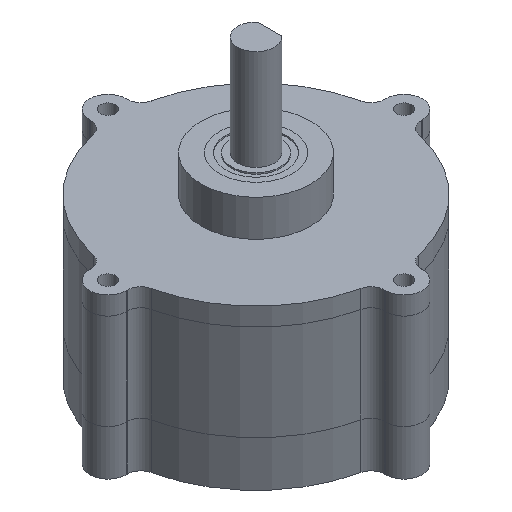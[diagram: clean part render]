
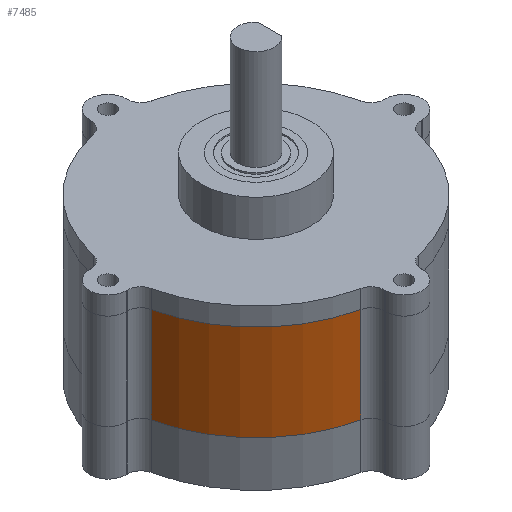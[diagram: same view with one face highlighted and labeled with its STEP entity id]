
A CAD part, isometric view. The second image highlights one B-rep face of the part: STEP entity #7485.
In plain terms, the highlighted cylindrical face has radius 30 mm (diameter 60 mm), a partial arc.
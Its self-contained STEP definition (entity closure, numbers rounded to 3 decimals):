
#6685 = VERTEX_POINT('',#6686);
#6686 = CARTESIAN_POINT('',(-6.364,-29.317,10.));
#6693 = EDGE_CURVE('',#6694,#6685,#6696,.T.);
#6694 = VERTEX_POINT('',#6695);
#6695 = CARTESIAN_POINT('',(-29.317,-6.364,10.));
#6696 = CIRCLE('',#6697,30.);
#6697 = AXIS2_PLACEMENT_3D('',#6698,#6699,#6700);
#6698 = CARTESIAN_POINT('',(0.,0.,10.));
#6699 = DIRECTION('',(0.,0.,1.));
#6700 = DIRECTION('',(1.,0.,-0.));
#7049 = VERTEX_POINT('',#7050);
#7050 = CARTESIAN_POINT('',(-29.317,-6.364,31.));
#7057 = EDGE_CURVE('',#7049,#7058,#7060,.T.);
#7058 = VERTEX_POINT('',#7059);
#7059 = CARTESIAN_POINT('',(-6.364,-29.317,31.));
#7060 = CIRCLE('',#7061,30.);
#7061 = AXIS2_PLACEMENT_3D('',#7062,#7063,#7064);
#7062 = CARTESIAN_POINT('',(0.,0.,31.));
#7063 = DIRECTION('',(0.,0.,1.));
#7064 = DIRECTION('',(1.,0.,-0.));
#7456 = EDGE_CURVE('',#6685,#7058,#7457,.T.);
#7457 = LINE('',#7458,#7459);
#7458 = CARTESIAN_POINT('',(-6.364,-29.317,10.));
#7459 = VECTOR('',#7460,1.);
#7460 = DIRECTION('',(0.,0.,1.));
#7485 = ADVANCED_FACE('',(#7486),#7497,.T.);
#7486 = FACE_BOUND('',#7487,.T.);
#7487 = EDGE_LOOP('',(#7488,#7489,#7495,#7496));
#7488 = ORIENTED_EDGE('',*,*,#7057,.F.);
#7489 = ORIENTED_EDGE('',*,*,#7490,.F.);
#7490 = EDGE_CURVE('',#6694,#7049,#7491,.T.);
#7491 = LINE('',#7492,#7493);
#7492 = CARTESIAN_POINT('',(-29.317,-6.364,10.));
#7493 = VECTOR('',#7494,1.);
#7494 = DIRECTION('',(0.,0.,1.));
#7495 = ORIENTED_EDGE('',*,*,#6693,.T.);
#7496 = ORIENTED_EDGE('',*,*,#7456,.T.);
#7497 = CYLINDRICAL_SURFACE('',#7498,30.);
#7498 = AXIS2_PLACEMENT_3D('',#7499,#7500,#7501);
#7499 = CARTESIAN_POINT('',(0.,0.,10.));
#7500 = DIRECTION('',(0.,0.,1.));
#7501 = DIRECTION('',(1.,0.,-0.));
